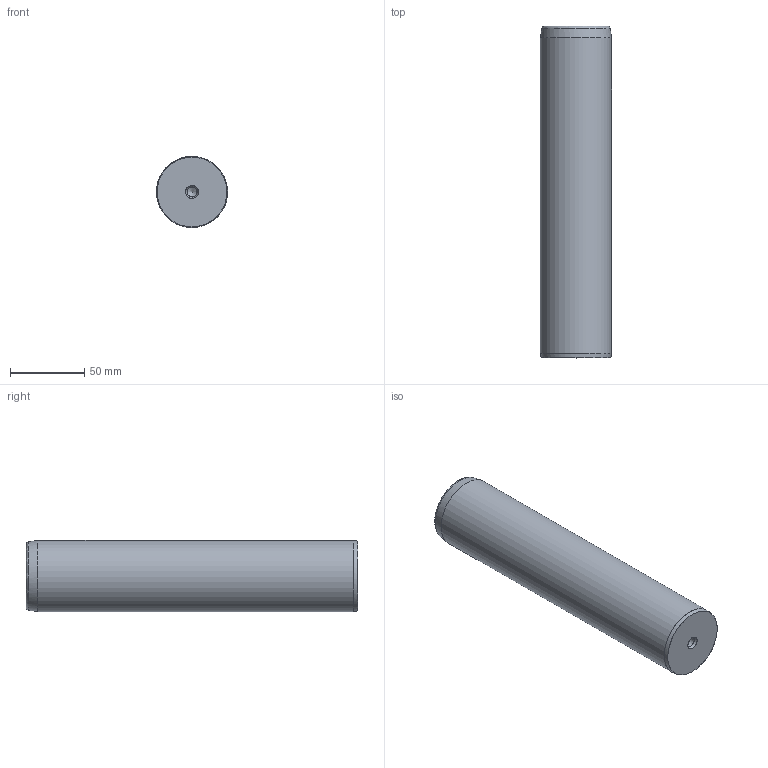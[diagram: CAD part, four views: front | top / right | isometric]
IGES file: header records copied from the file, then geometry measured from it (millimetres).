
Start section: Missler Software BP 521, 31674 Labege Cedex, France Tel   : +33 (0)5 61 00 03 00 Fax   : +33 (0)5 61 00 03 03 Email : sup.topsolid@topsolid.com
Global section: file name: D:\Cuma\D14-2\D14_48224.igs; native system: TopSolid v605250 Missler Software; preprocessor: IGES preprocessor v100000; date: 030120.195415; units: millimetre
Bounding box: 47.95 x 224 x 48 mm (x, y, z)
Surface area: 38229.4 mm2 (no closed solid volume)
Topology: 0 solids, 0 shells, 14 faces, 145 edges, 136 vertices
Faces by surface type: bspline 14
